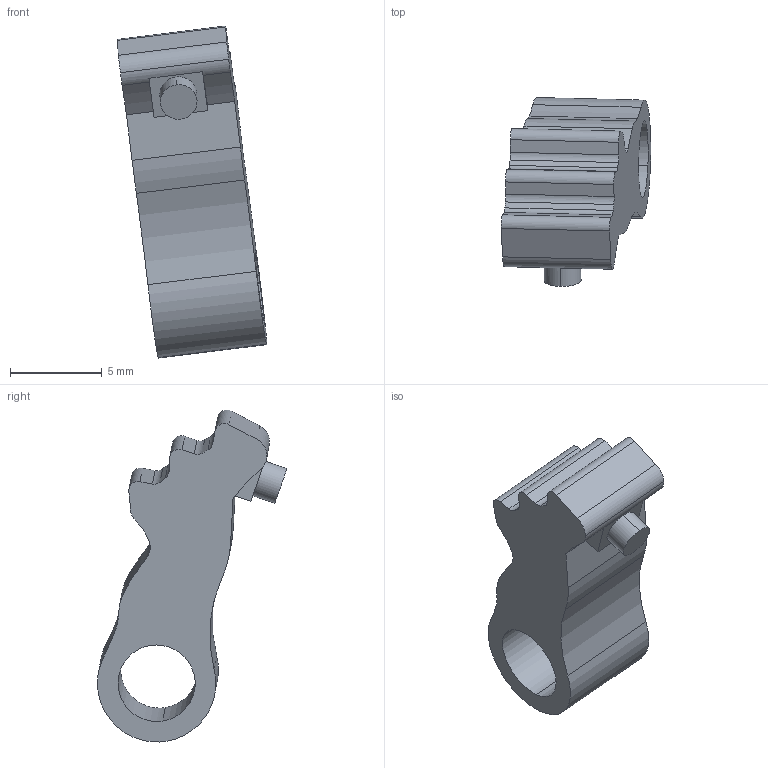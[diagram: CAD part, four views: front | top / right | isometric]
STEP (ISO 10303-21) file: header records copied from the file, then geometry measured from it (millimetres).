
FILE_DESCRIPTION(('CATIA V5 STEP Exchange'),'2;1');
FILE_NAME('G:\够快云库\系统集成开发部\1.部门成员\孙国\3D-stp打印件\20211216\KHWJG-003-1216 卡件.stp','2021-12-16T06:47:20+00:00',('none'),('none'),'CATIA Version 5 Release 20 GA (IN-10)','CATIA V5 STEP AP214','none');
FILE_SCHEMA(('AUTOMOTIVE_DESIGN { 1 0 10303 214 1 1 1 1 }'));
Length unit declared in the file: millimetre
Products named in the file (1): KHWJG-003
Bounding box: 8.14 x 10.31 x 18.08 mm (x, y, z)
Volume: 436.4 mm3; surface area: 509.4 mm2
Topology: 1 solids, 1 shells, 46 faces, 131 edges, 88 vertices
Faces by surface type: cylinder 30, plane 14, bspline 2
Entity records: 1639 total; most frequent: CARTESIAN_POINT 518, ORIENTED_EDGE 262, DIRECTION 167, EDGE_CURVE 131, VERTEX_POINT 88, AXIS2_PLACEMENT_3D 69, VECTOR 56, LINE 56
